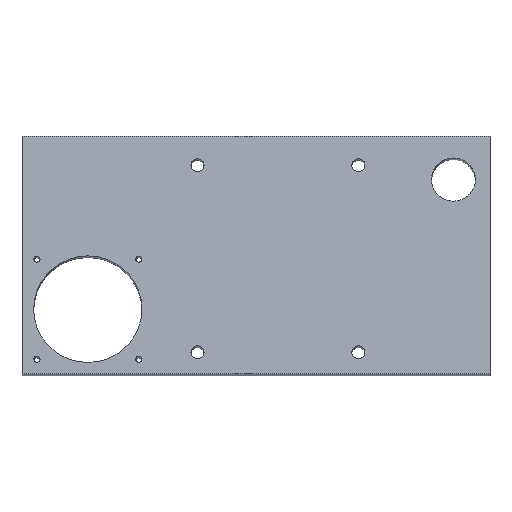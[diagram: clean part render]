
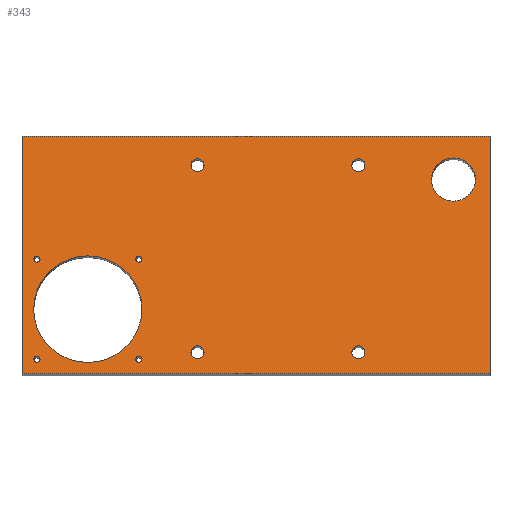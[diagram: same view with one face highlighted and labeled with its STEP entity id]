
A CAD part, top view. The second image highlights one B-rep face of the part: STEP entity #343.
In plain terms, the highlighted planar face has unit normal (0, 0.174, 0.985).
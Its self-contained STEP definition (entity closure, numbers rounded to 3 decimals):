
#177=CARTESIAN_POINT('',(-213.5,17.073,1690.004));
#178=VERTEX_POINT('',#177);
#185=CARTESIAN_POINT('',(-213.5,-145.421,1718.656));
#186=VERTEX_POINT('',#185);
#187=CARTESIAN_POINT('',(-213.5,17.073,1690.004));
#188=DIRECTION('',(0.0,-0.985,0.174));
#189=VECTOR('',#188,1.);
#190=LINE('',#187,#189);
#191=EDGE_CURVE('',#178,#186,#190,.T.);
#203=CARTESIAN_POINT('',(-213.5,17.073,1690.004));
#204=DIRECTION('',(0.0,0.174,0.985));
#205=DIRECTION('',(-1.0,0.0,0.0));
#206=AXIS2_PLACEMENT_3D('',#203,#204,#205);
#207=PLANE('',#206);
#208=CARTESIAN_POINT('',(-533.5,17.073,1690.004));
#209=VERTEX_POINT('',#208);
#210=CARTESIAN_POINT('',(-213.5,17.073,1690.004));
#211=DIRECTION('',(-1.0,0.,0.));
#212=VECTOR('',#211,1.);
#213=LINE('',#210,#212);
#214=EDGE_CURVE('',#178,#209,#213,.T.);
#215=ORIENTED_EDGE('',*,*,#214,.T.);
#216=CARTESIAN_POINT('',(-533.5,-145.421,1718.656));
#217=VERTEX_POINT('',#216);
#218=CARTESIAN_POINT('',(-533.5,17.073,1690.004));
#219=DIRECTION('',(0.0,-0.985,0.174));
#220=VECTOR('',#219,1.);
#221=LINE('',#218,#220);
#222=EDGE_CURVE('',#209,#217,#221,.T.);
#223=ORIENTED_EDGE('',*,*,#222,.T.);
#224=CARTESIAN_POINT('',(-213.5,-145.421,1718.656));
#225=DIRECTION('',(-1.0,0.,0.));
#226=VECTOR('',#225,1.);
#227=LINE('',#224,#226);
#228=EDGE_CURVE('',#186,#217,#227,.T.);
#229=ORIENTED_EDGE('',*,*,#228,.F.);
#230=ORIENTED_EDGE('',*,*,#191,.F.);
#231=EDGE_LOOP('',(#215,#223,#229,#230));
#232=FACE_OUTER_BOUND('',#231,.T.);
#233=CARTESIAN_POINT('',(-451.5,-101.104,1710.842));
#234=VERTEX_POINT('',#233);
#235=CARTESIAN_POINT('',(-488.5,-101.104,1710.842));
#236=DIRECTION('',(0.0,0.174,0.985));
#237=DIRECTION('',(1.0,0.0,0.0));
#238=AXIS2_PLACEMENT_3D('',#235,#236,#237);
#239=CIRCLE('',#238,37.0);
#240=EDGE_CURVE('',#234,#234,#239,.T.);
#241=ORIENTED_EDGE('',*,*,#240,.F.);
#242=EDGE_LOOP('',(#241));
#243=FACE_BOUND('',#242,.T.);
#244=CARTESIAN_POINT('',(-223.5,-12.471,1695.213));
#245=VERTEX_POINT('',#244);
#246=CARTESIAN_POINT('',(-238.5,-12.471,1695.213));
#247=DIRECTION('',(0.0,0.174,0.985));
#248=DIRECTION('',(1.0,0.0,0.0));
#249=AXIS2_PLACEMENT_3D('',#246,#247,#248);
#250=CIRCLE('',#249,15.0);
#251=EDGE_CURVE('',#245,#245,#250,.T.);
#252=ORIENTED_EDGE('',*,*,#251,.F.);
#253=EDGE_LOOP('',(#252));
#254=FACE_BOUND('',#253,.T.);
#255=CARTESIAN_POINT('',(-521.19,-66.843,1704.801));
#256=VERTEX_POINT('',#255);
#257=CARTESIAN_POINT('',(-523.29,-66.843,1704.801));
#258=DIRECTION('',(0.0,0.174,0.985));
#259=DIRECTION('',(1.0,0.0,0.0));
#260=AXIS2_PLACEMENT_3D('',#257,#258,#259);
#261=CIRCLE('',#260,2.1);
#262=EDGE_CURVE('',#256,#256,#261,.T.);
#263=ORIENTED_EDGE('',*,*,#262,.F.);
#264=EDGE_LOOP('',(#263));
#265=FACE_BOUND('',#264,.T.);
#266=CARTESIAN_POINT('',(-521.19,-135.366,1716.883));
#267=VERTEX_POINT('',#266);
#268=CARTESIAN_POINT('',(-523.29,-135.366,1716.883));
#269=DIRECTION('',(0.0,0.174,0.985));
#270=DIRECTION('',(1.0,0.0,0.0));
#271=AXIS2_PLACEMENT_3D('',#268,#269,#270);
#272=CIRCLE('',#271,2.1);
#273=EDGE_CURVE('',#267,#267,#272,.T.);
#274=ORIENTED_EDGE('',*,*,#273,.F.);
#275=EDGE_LOOP('',(#274));
#276=FACE_BOUND('',#275,.T.);
#277=CARTESIAN_POINT('',(-451.61,-66.843,1704.801));
#278=VERTEX_POINT('',#277);
#279=CARTESIAN_POINT('',(-453.71,-66.843,1704.801));
#280=DIRECTION('',(0.0,0.174,0.985));
#281=DIRECTION('',(1.0,0.0,0.0));
#282=AXIS2_PLACEMENT_3D('',#279,#280,#281);
#283=CIRCLE('',#282,2.1);
#284=EDGE_CURVE('',#278,#278,#283,.T.);
#285=ORIENTED_EDGE('',*,*,#284,.F.);
#286=EDGE_LOOP('',(#285));
#287=FACE_BOUND('',#286,.T.);
#288=CARTESIAN_POINT('',(-451.61,-135.366,1716.883));
#289=VERTEX_POINT('',#288);
#290=CARTESIAN_POINT('',(-453.71,-135.366,1716.883));
#291=DIRECTION('',(0.0,0.174,0.985));
#292=DIRECTION('',(1.0,0.0,0.0));
#293=AXIS2_PLACEMENT_3D('',#290,#291,#292);
#294=CIRCLE('',#293,2.1);
#295=EDGE_CURVE('',#289,#289,#294,.T.);
#296=ORIENTED_EDGE('',*,*,#295,.F.);
#297=EDGE_LOOP('',(#296));
#298=FACE_BOUND('',#297,.T.);
#299=CARTESIAN_POINT('',(-409.,-2.623,1693.477));
#300=VERTEX_POINT('',#299);
#301=CARTESIAN_POINT('',(-413.5,-2.623,1693.477));
#302=DIRECTION('',(0.0,0.174,0.985));
#303=DIRECTION('',(1.0,0.0,0.0));
#304=AXIS2_PLACEMENT_3D('',#301,#302,#303);
#305=CIRCLE('',#304,4.5);
#306=EDGE_CURVE('',#300,#300,#305,.T.);
#307=ORIENTED_EDGE('',*,*,#306,.F.);
#308=EDGE_LOOP('',(#307));
#309=FACE_BOUND('',#308,.T.);
#310=CARTESIAN_POINT('',(-409.,-130.648,1716.051));
#311=VERTEX_POINT('',#310);
#312=CARTESIAN_POINT('',(-413.5,-130.648,1716.051));
#313=DIRECTION('',(0.0,0.174,0.985));
#314=DIRECTION('',(1.0,0.0,0.0));
#315=AXIS2_PLACEMENT_3D('',#312,#313,#314);
#316=CIRCLE('',#315,4.5);
#317=EDGE_CURVE('',#311,#311,#316,.T.);
#318=ORIENTED_EDGE('',*,*,#317,.F.);
#319=EDGE_LOOP('',(#318));
#320=FACE_BOUND('',#319,.T.);
#321=CARTESIAN_POINT('',(-299.0,-2.623,1693.477));
#322=VERTEX_POINT('',#321);
#323=CARTESIAN_POINT('',(-303.5,-2.623,1693.477));
#324=DIRECTION('',(0.0,0.174,0.985));
#325=DIRECTION('',(1.0,0.0,0.0));
#326=AXIS2_PLACEMENT_3D('',#323,#324,#325);
#327=CIRCLE('',#326,4.5);
#328=EDGE_CURVE('',#322,#322,#327,.T.);
#329=ORIENTED_EDGE('',*,*,#328,.F.);
#330=EDGE_LOOP('',(#329));
#331=FACE_BOUND('',#330,.T.);
#332=CARTESIAN_POINT('',(-299.0,-130.648,1716.051));
#333=VERTEX_POINT('',#332);
#334=CARTESIAN_POINT('',(-303.5,-130.648,1716.051));
#335=DIRECTION('',(0.0,0.174,0.985));
#336=DIRECTION('',(1.0,0.0,0.0));
#337=AXIS2_PLACEMENT_3D('',#334,#335,#336);
#338=CIRCLE('',#337,4.5);
#339=EDGE_CURVE('',#333,#333,#338,.T.);
#340=ORIENTED_EDGE('',*,*,#339,.F.);
#341=EDGE_LOOP('',(#340));
#342=FACE_BOUND('',#341,.T.);
#343=ADVANCED_FACE('',(#232,#243,#254,#265,#276,#287,#298,#309,#320,#331,#342),#207,.T.);
